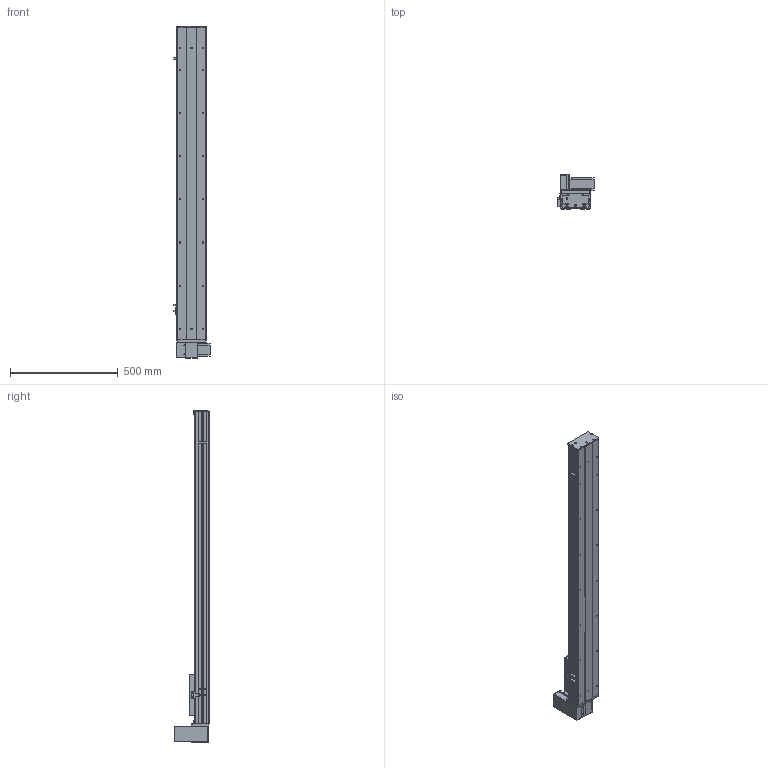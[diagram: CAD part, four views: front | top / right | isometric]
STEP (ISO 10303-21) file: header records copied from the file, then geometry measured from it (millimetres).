
FILE_DESCRIPTION (( 'STEP AP203' ), '1' );
FILE_NAME ('Y135CB-D90-S1150-UR-P400W.STEP', '2020-02-18T04:08:00', ( '微软用户' ), ( '微软中国' ), 'SwSTEP 2.0', 'SolidWorks 2017', '' );
FILE_SCHEMA (( 'CONFIG_CONTROL_DESIGN' ));
Length unit declared in the file: millimetre
Products named in the file (18): 5C--俋欶; 0B-源倛裔啣; C-雄赽釱--; 0B-萇儂楊擘啣; Y10B--々湍喘謫眊--666; san松下电机400不带刹车----; Y10B-耜蚾蟀諉啣----; 5CB --掛极耜裔啣-; 00B-俋欶BM--; C-詩湍揤踡え-陔; Y135CB-耜裔; Y135CB-D90-S1150-UR-P400W; 135CB--詩湍-CE; 135CB---遴掛极.-; Y100-135俋离換覜ん--; 35CB---喘謫眊楊擘啣; Y135C-陔俋离換覜結え-; 0B-埴倛裔啣
Assembly tree (21 placements, depth 2):
  Y135CB-D90-S1150-UR-P400W
    Y135CB-耜裔
    135CB---遴掛极.-
    35CB---喘謫眊楊擘啣
    0B-埴倛裔啣
    0B-源倛裔啣
    0B-萇儂楊擘啣
    san松下电机400不带刹车----
    5CB --掛极耜裔啣-  x2
    C-詩湍揤踡え-陔  x2
    135CB--詩湍-CE
    Y100-135俋离換覜ん--  x3
    Y135C-陔俋离換覜結え-
    5C--俋欶
    C-雄赽釱--
    Y10B--々湍喘謫眊--666
    Y10B-耜蚾蟀諉啣----
    00B-俋欶BM--
Bounding box: 167.5 x 158.7 x 1538 mm (x, y, z)
Volume: 4775932.4 mm3; surface area: 1872624.2 mm2
Topology: 21 solids, 21 shells, 949 faces, 2545 edges, 1686 vertices
Faces by surface type: cylinder 477, plane 456, cone 16
Entity records: 29551 total; most frequent: DIRECTION 4909, CARTESIAN_POINT 4856, ORIENTED_EDGE 4566, EDGE_CURVE 2283, AXIS2_PLACEMENT_3D 1791, VERTEX_POINT 1514, LINE 1327, VECTOR 1327
